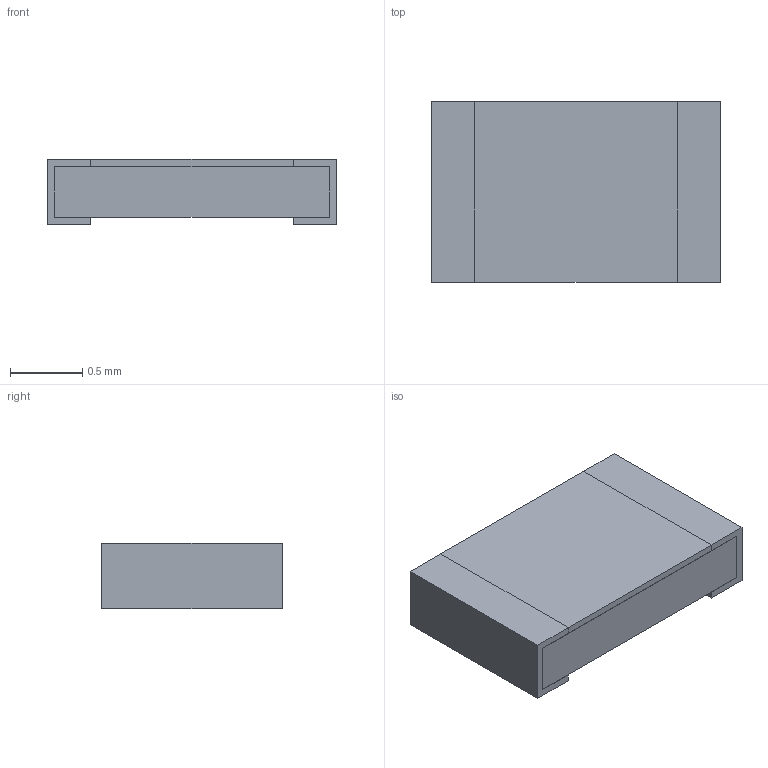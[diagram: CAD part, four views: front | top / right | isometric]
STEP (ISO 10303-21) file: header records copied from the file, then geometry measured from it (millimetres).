
FILE_DESCRIPTION(('STEP AP203'), '1');
FILE_NAME('P1-8B-0805', '', ('UNSPECIFIED'), ('UNSPECIFIED'), 'ASCON STEP Converter 1.6', 'ASCON Math Kernel', '');
FILE_SCHEMA(('CONFIG_CONTROL_DESIGN'));
Length unit declared in the file: millimetre
Bounding box: 2 x 1.25 x 0.45 mm (x, y, z)
Volume: 1 mm3; surface area: 16.1 mm2
Topology: 4 solids, 5 shells, 51 faces, 123 edges, 82 vertices
Faces by surface type: plane 47, cylinder 4
Entity records: 1937 total; most frequent: CARTESIAN_POINT 257, ORIENTED_EDGE 246, DIRECTION 235, EDGE_CURVE 123, LINE 115, VECTOR 115, VERTEX_POINT 82, AXIS2_PLACEMENT_3D 60
